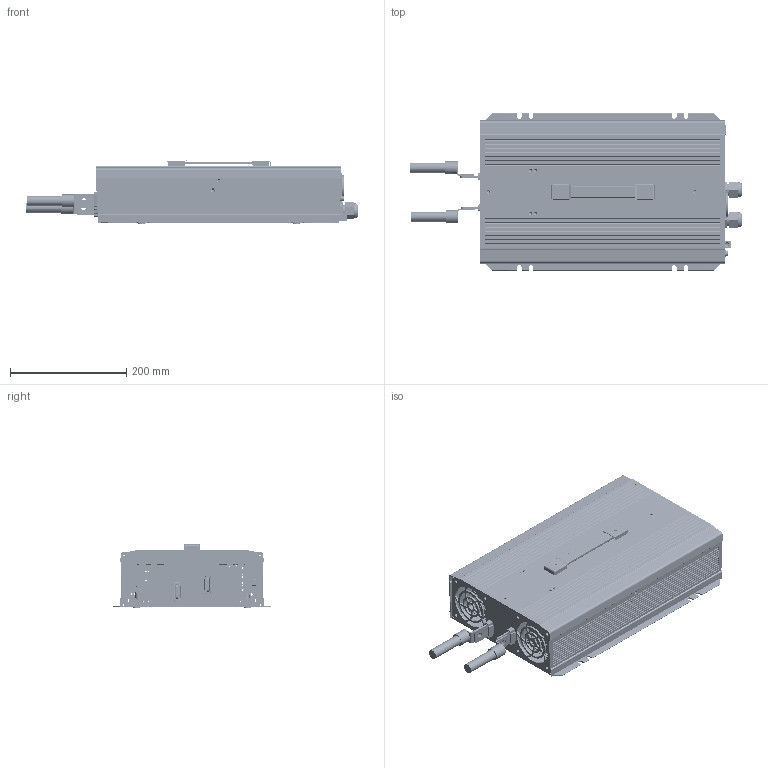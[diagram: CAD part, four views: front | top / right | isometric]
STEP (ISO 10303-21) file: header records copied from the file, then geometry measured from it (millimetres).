
FILE_DESCRIPTION(('Creo Elements/Direct Modeling STEP Export'),'2;1');
FILE_NAME('NTU-3200-EU.stp','2022-03-28T18:48:21',(''),(''),'PTC Creo Elements/Direct Modeling STEP processor for AP214 (Solid Model)','PTC Creo Elements/Direct Modeling 19.0E 27-Jun-2016 (C) Parametric Technology GmbH','');
FILE_SCHEMA(('AUTOMOTIVE_DESIGN { 1 0 10303 214 1 1 1 1 }'));
Length unit declared in the file: millimetre
Products named in the file (231): 零件9; 零件8; 零件7; 零件6; 零件5; 零件4; 零件3; 零件2; 零件12; 零件11; 零件10; 零件1; 电容; 欧插片; open_shell.1; guwei1.1; guwei1; _S___S_O_S_JL; _S_4_X2_0192_X0__S__S_6_S___S_U; _S_4_X2_0192_X0__S_; TO220.21; TO220.9; TO220.8; TO220.7; TO220.6; TO220.5; TO220.4; TO220.3; TO220.20; TO220.2; TO220.19; TO220.18; TO220.17; TO220.16; TO220.15; TO220.14; TO220.13; TO220.12; TO220.11; TO220.10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
Assembly tree (132 placements, depth 2):
  零件9
  零件8
  零件7
  零件6
  零件5
    零件5
Bounding box: 570.16 x 270 x 108.65 mm (x, y, z)
Volume: 2399197.7 mm3; surface area: 2049696.1 mm2
Topology: 151 solids, 157 shells, 8525 faces, 23075 edges, 15020 vertices
Faces by surface type: plane 4986, cylinder 2829, cone 295, torus 219, bspline 101, sphere 94, extrusion 1
Entity records: 217296 total; most frequent: CARTESIAN_POINT 45106, ORIENTED_EDGE 33906, DIRECTION 31180, EDGE_CURVE 16958, VECTOR 11704, LINE 11703, VERTEX_POINT 11061, AXIS2_PLACEMENT_3D 9738
